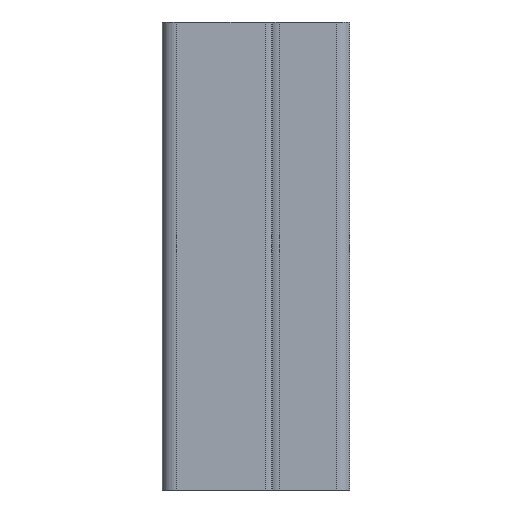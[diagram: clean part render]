
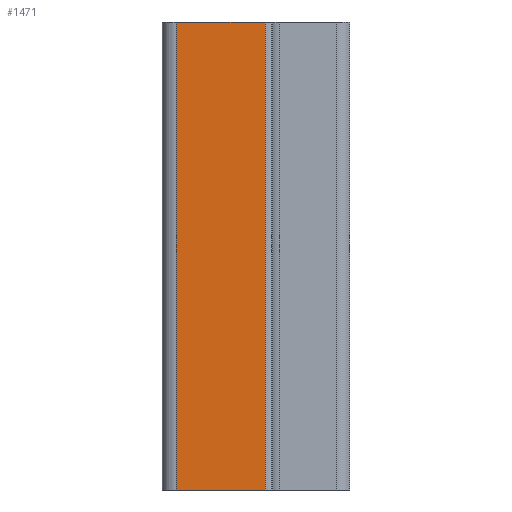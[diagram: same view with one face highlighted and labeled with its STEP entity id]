
A CAD part, front view. The second image highlights one B-rep face of the part: STEP entity #1471.
In plain terms, the highlighted planar face has unit normal (0, -1, 0).
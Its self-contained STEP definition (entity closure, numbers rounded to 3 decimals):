
#155 = CARTESIAN_POINT ( 'NONE',  ( -9.5, -12.5, 100. ) ) ;
#176 = AXIS2_PLACEMENT_3D ( 'NONE', #155, #1388, #1554 ) ;
#237 = CARTESIAN_POINT ( 'NONE',  ( -9.5, -12.5, 100. ) ) ;
#410 = VECTOR ( 'NONE', #775, 1000. ) ;
#429 = LINE ( 'NONE', #1937, #1288 ) ;
#436 = VERTEX_POINT ( 'NONE', #799 ) ;
#578 = ORIENTED_EDGE ( 'NONE', *, *, #2193, .T. ) ;
#652 = EDGE_CURVE ( 'NONE', #436, #2213, #429, .T. ) ;
#672 = PLANE ( 'NONE',  #176 ) ;
#756 = DIRECTION ( 'NONE',  ( -1., 0., 0. ) ) ;
#773 = FACE_OUTER_BOUND ( 'NONE', #969, .T. ) ;
#775 = DIRECTION ( 'NONE',  ( 0., 0., -1. ) ) ;
#799 = CARTESIAN_POINT ( 'NONE',  ( 9.5, -12.5, 100. ) ) ;
#903 = ORIENTED_EDGE ( 'NONE', *, *, #1535, .F. ) ;
#969 = EDGE_LOOP ( 'NONE', ( #1467, #903, #1243, #578 ) ) ;
#1156 = VERTEX_POINT ( 'NONE', #1796 ) ;
#1217 = CARTESIAN_POINT ( 'NONE',  ( -9.5, -12.5, 0. ) ) ;
#1229 = LINE ( 'NONE', #1672, #1977 ) ;
#1243 = ORIENTED_EDGE ( 'NONE', *, *, #652, .T. ) ;
#1288 = VECTOR ( 'NONE', #756, 1000. ) ;
#1388 = DIRECTION ( 'NONE',  ( 0., 1., 0. ) ) ;
#1399 = DIRECTION ( 'NONE',  ( -1., 0., 0. ) ) ;
#1467 = ORIENTED_EDGE ( 'NONE', *, *, #1484, .F. ) ;
#1471 = ADVANCED_FACE ( 'NONE', ( #773 ), #672, .F. ) ;
#1484 = EDGE_CURVE ( 'NONE', #2014, #1156, #2107, .T. ) ;
#1518 = DIRECTION ( 'NONE',  ( 0., 0., -1. ) ) ;
#1535 = EDGE_CURVE ( 'NONE', #436, #2014, #1229, .T. ) ;
#1554 = DIRECTION ( 'NONE',  ( 1., 0., 0. ) ) ;
#1672 = CARTESIAN_POINT ( 'NONE',  ( 9.5, -12.5, 100. ) ) ;
#1780 = LINE ( 'NONE', #237, #410 ) ;
#1796 = CARTESIAN_POINT ( 'NONE',  ( -9.5, -12.5, 0. ) ) ;
#1925 = CARTESIAN_POINT ( 'NONE',  ( 9.5, -12.5, 0. ) ) ;
#1937 = CARTESIAN_POINT ( 'NONE',  ( -9.5, -12.5, 100. ) ) ;
#1977 = VECTOR ( 'NONE', #1518, 1000. ) ;
#1999 = CARTESIAN_POINT ( 'NONE',  ( -9.5, -12.5, 100. ) ) ;
#2014 = VERTEX_POINT ( 'NONE', #1925 ) ;
#2107 = LINE ( 'NONE', #1217, #2160 ) ;
#2160 = VECTOR ( 'NONE', #1399, 1000. ) ;
#2193 = EDGE_CURVE ( 'NONE', #2213, #1156, #1780, .T. ) ;
#2213 = VERTEX_POINT ( 'NONE', #1999 ) ;
